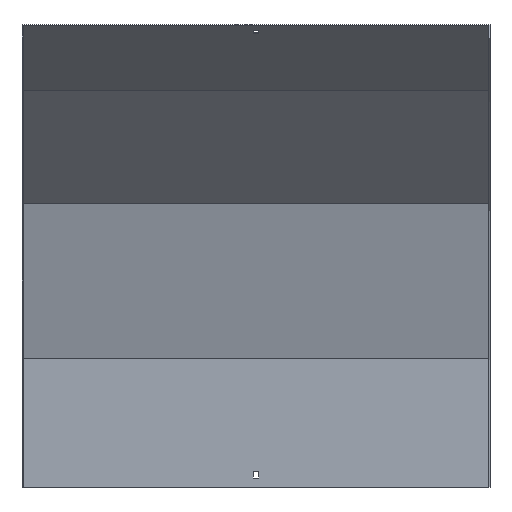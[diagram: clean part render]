
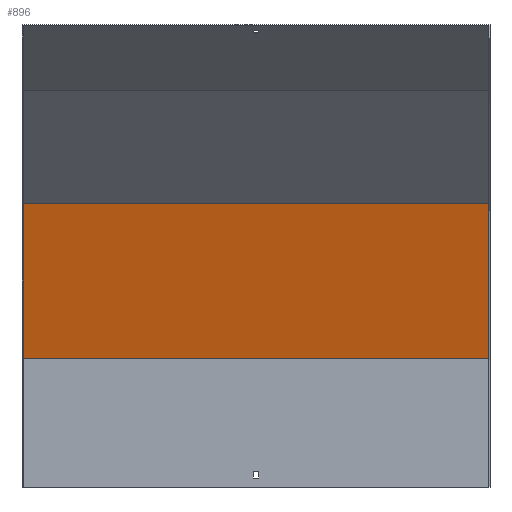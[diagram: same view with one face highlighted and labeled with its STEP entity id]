
A CAD part, front view. The second image highlights one B-rep face of the part: STEP entity #896.
In plain terms, the highlighted planar face has unit normal (0, -0.966, -0.259).
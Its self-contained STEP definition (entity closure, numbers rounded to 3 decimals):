
#18 = CARTESIAN_POINT ( 'NONE',  ( 301.5, -34.918, 365.796 ) ) ;
#24 = CARTESIAN_POINT ( 'NONE',  ( -300., 58.87, 15.774 ) ) ;
#36 = DIRECTION ( 'NONE',  ( -1., 0., 0. ) ) ;
#63 = VERTEX_POINT ( 'NONE', #574 ) ;
#73 = ORIENTED_EDGE ( 'NONE', *, *, #360, .F. ) ;
#172 = ORIENTED_EDGE ( 'NONE', *, *, #954, .T. ) ;
#190 = VERTEX_POINT ( 'NONE', #371 ) ;
#219 = CARTESIAN_POINT ( 'NONE',  ( -300., 18.5, 166.436 ) ) ;
#221 = VERTEX_POINT ( 'NONE', #219 ) ;
#240 = EDGE_CURVE ( 'NONE', #190, #63, #538, .T. ) ;
#243 = EDGE_CURVE ( 'NONE', #190, #221, #922, .T. ) ;
#300 = DIRECTION ( 'NONE',  ( 0., -0.259, 0.966 ) ) ;
#359 = ORIENTED_EDGE ( 'NONE', *, *, #240, .T. ) ;
#360 = EDGE_CURVE ( 'NONE', #221, #744, #479, .T. ) ;
#370 = VECTOR ( 'NONE', #300, 1000. ) ;
#371 = CARTESIAN_POINT ( 'NONE',  ( 300., 18.5, 166.436 ) ) ;
#381 = VECTOR ( 'NONE', #36, 1000. ) ;
#424 = DIRECTION ( 'NONE',  ( 0., -0.259, 0.966 ) ) ;
#456 = CARTESIAN_POINT ( 'NONE',  ( 301.5, 18.5, 166.436 ) ) ;
#459 = PLANE ( 'NONE',  #752 ) ;
#468 = CARTESIAN_POINT ( 'NONE',  ( 301.5, 17.87, 168.788 ) ) ;
#479 = LINE ( 'NONE', #24, #635 ) ;
#487 = CARTESIAN_POINT ( 'NONE',  ( -300., -34.918, 365.796 ) ) ;
#488 = LINE ( 'NONE', #18, #381 ) ;
#538 = LINE ( 'NONE', #619, #370 ) ;
#551 = DIRECTION ( 'NONE',  ( 0., -0.966, -0.259 ) ) ;
#574 = CARTESIAN_POINT ( 'NONE',  ( 300., -34.918, 365.796 ) ) ;
#619 = CARTESIAN_POINT ( 'NONE',  ( 300., 58.87, 15.774 ) ) ;
#628 = DIRECTION ( 'NONE',  ( -1., 0., 0. ) ) ;
#635 = VECTOR ( 'NONE', #424, 1000. ) ;
#744 = VERTEX_POINT ( 'NONE', #487 ) ;
#752 = AXIS2_PLACEMENT_3D ( 'NONE', #468, #551, #843 ) ;
#775 = VECTOR ( 'NONE', #628, 1000. ) ;
#812 = ORIENTED_EDGE ( 'NONE', *, *, #243, .F. ) ;
#816 = EDGE_LOOP ( 'NONE', ( #73, #812, #359, #172 ) ) ;
#843 = DIRECTION ( 'NONE',  ( 0., 0.259, -0.966 ) ) ;
#896 = ADVANCED_FACE ( 'NONE', ( #926 ), #459, .T. ) ;
#922 = LINE ( 'NONE', #456, #775 ) ;
#926 = FACE_OUTER_BOUND ( 'NONE', #816, .T. ) ;
#954 = EDGE_CURVE ( 'NONE', #63, #744, #488, .T. ) ;
